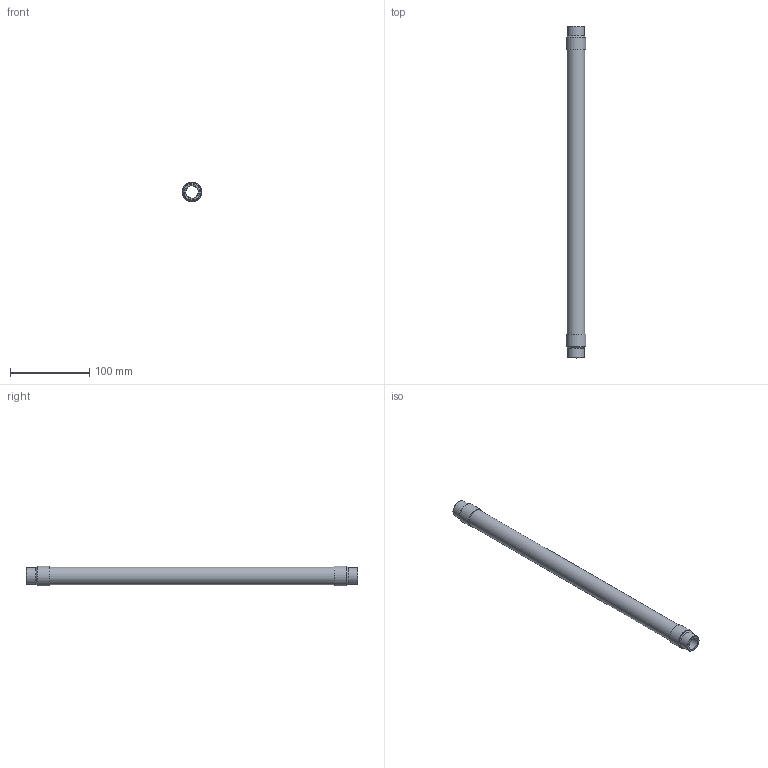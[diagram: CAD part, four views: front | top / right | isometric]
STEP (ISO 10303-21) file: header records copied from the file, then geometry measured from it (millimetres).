
FILE_DESCRIPTION(/* description */ (''),/* implementation_level */ '2;1');
FILE_NAME(/* name */ 'C:\001_Work\Designs\CSAWN\CSAWN-0.5x16.5.stp',/* time_stamp */ '2016-06-04T16:05:42-04:00',/* author */ ('rramoutar'),/* organization */ ('Mason Industries Inc.'),/* preprocessor_version */ 'ST-DEVELOPER v15.6',/* originating_system */ 'Autodesk Inventor 2015',/* authorisation */ '');
FILE_SCHEMA (('CONFIG_CONTROL_DESIGN'));
Length unit declared in the file: inch
Products named in the file (1): CSAWN-0.5x16.5
Bounding box: 25.09 x 419.1 x 25.09 mm (x, y, z)
Volume: 16057.3 mm3; surface area: 64474.4 mm2
Topology: 5 solids, 5 shells, 24 faces, 44 edges, 30 vertices
Faces by surface type: cylinder 10, plane 10, cone 4
Full cylindrical faces by diameter (mm): 15.799 x2, 21.336 x2, 22.098 x1, 22.708 x3, 25.095 x2
Entity records: 611 total; most frequent: DIRECTION 106, CARTESIAN_POINT 81, ORIENTED_EDGE 56, AXIS2_PLACEMENT_3D 53, EDGE_LOOP 48, STYLED_ITEM 29, CIRCLE 28, VERTEX_POINT 28
